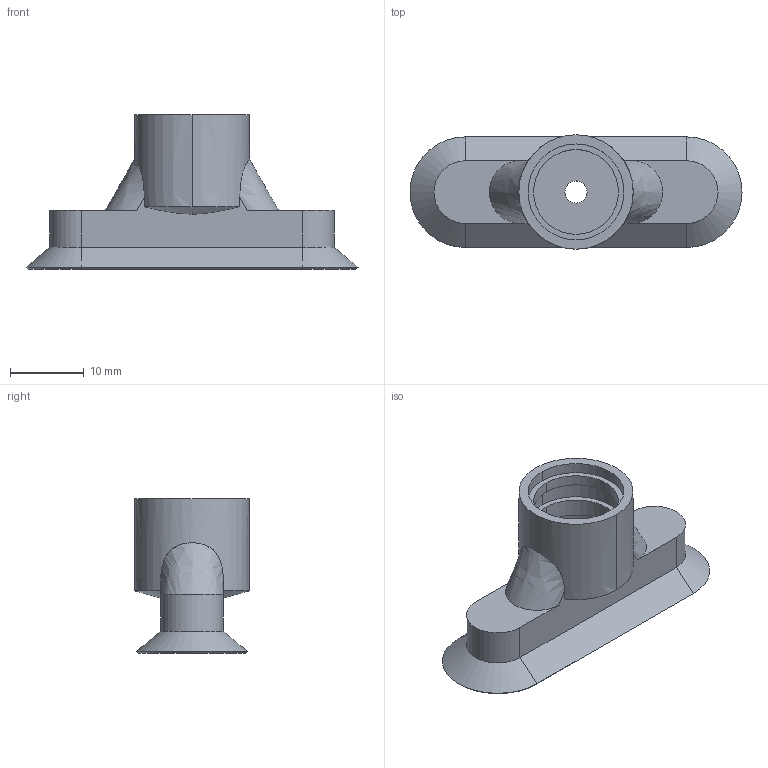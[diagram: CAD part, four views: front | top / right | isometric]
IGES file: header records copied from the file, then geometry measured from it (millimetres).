
Start section: 3D InterOp IGES (v. 2018 1.0.2), Spatial Corp. Copyright (c) 1999-2017.
Global section: file name: schmalz_10_01_05_00159_915lxhlzklrkg07pg78xp1e94.igs; native system: Spatial Corp.; preprocessor: 3D InterOp ACIS/IGES; author: TraceParts; organization: TraceParts S.A.; date: 20181123.063310; units: millimetre
Bounding box: 45 x 15.5 x 21 mm (x, y, z)
Surface area: 3140.1 mm2 (no closed solid volume)
Topology: 0 solids, 0 shells, 45 faces, 264 edges, 264 vertices
Faces by surface type: revolution 26, extrusion 17, bspline 2
